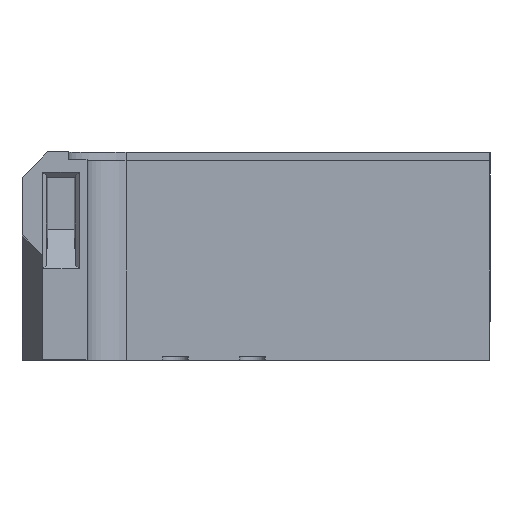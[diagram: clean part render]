
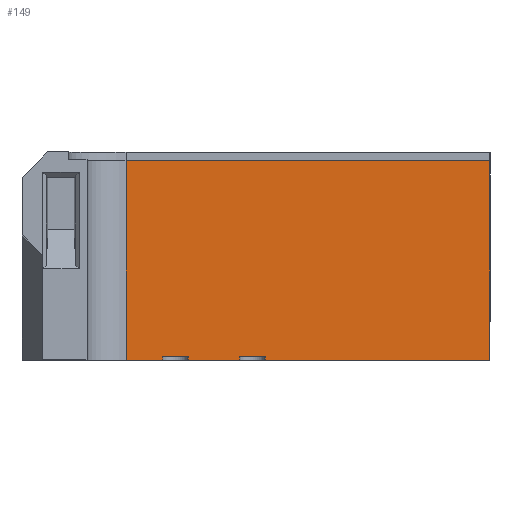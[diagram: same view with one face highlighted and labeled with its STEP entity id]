
A CAD part, top view. The second image highlights one B-rep face of the part: STEP entity #149.
In plain terms, the highlighted planar face has unit normal (0, 0, 1).
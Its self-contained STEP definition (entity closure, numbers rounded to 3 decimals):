
#12 = EDGE_CURVE ( 'NONE', #1161, #672, #2212, .T. ) ;
#42 = LINE ( 'NONE', #1727, #1530 ) ;
#50 = VERTEX_POINT ( 'NONE', #1430 ) ;
#98 = ORIENTED_EDGE ( 'NONE', *, *, #1124, .F. ) ;
#117 = VERTEX_POINT ( 'NONE', #135 ) ;
#135 = CARTESIAN_POINT ( 'NONE',  ( -97.863, 0., -303.977 ) ) ;
#139 = CARTESIAN_POINT ( 'NONE',  ( -97.863, 1.5, -303.977 ) ) ;
#140 = EDGE_CURVE ( 'NONE', #2749, #50, #2722, .T. ) ;
#145 = CARTESIAN_POINT ( 'NONE',  ( -88.065, 1.5, -303.977 ) ) ;
#149 = ADVANCED_FACE ( 'NONE', ( #863 ), #2283, .T. ) ;
#178 = CARTESIAN_POINT ( 'NONE',  ( 173.336, 0., -303.977 ) ) ;
#184 = ORIENTED_EDGE ( 'NONE', *, *, #12, .T. ) ;
#196 = EDGE_CURVE ( 'NONE', #1002, #672, #2525, .T. ) ;
#204 = CARTESIAN_POINT ( 'NONE',  ( -127.563, 1.5, -303.977 ) ) ;
#211 = EDGE_CURVE ( 'NONE', #2421, #2366, #2481, .T. ) ;
#257 = ORIENTED_EDGE ( 'NONE', *, *, #140, .F. ) ;
#282 = EDGE_CURVE ( 'NONE', #2421, #50, #2620, .T. ) ;
#321 = DIRECTION ( 'NONE',  ( 0., -1., 0. ) ) ;
#351 = CARTESIAN_POINT ( 'NONE',  ( -127.563, 1.5, -303.977 ) ) ;
#367 = DIRECTION ( 'NONE',  ( 0., -1., 0. ) ) ;
#436 = EDGE_LOOP ( 'NONE', ( #2453, #1443, #257, #1931, #984, #184, #2157, #98, #2317, #1966, #1654, #2750 ) ) ;
#439 = DIRECTION ( 'NONE',  ( -1., 0., 0. ) ) ;
#539 = VECTOR ( 'NONE', #1464, 1000. ) ;
#546 = VERTEX_POINT ( 'NONE', #2667 ) ;
#591 = VECTOR ( 'NONE', #1227, 1000. ) ;
#607 = VERTEX_POINT ( 'NONE', #763 ) ;
#612 = CARTESIAN_POINT ( 'NONE',  ( 173.336, 0., -303.977 ) ) ;
#646 = DIRECTION ( 'NONE',  ( 1., 0., 0. ) ) ;
#664 = VECTOR ( 'NONE', #1150, 1000. ) ;
#672 = VERTEX_POINT ( 'NONE', #2703 ) ;
#688 = EDGE_CURVE ( 'NONE', #2670, #546, #2519, .T. ) ;
#690 = CARTESIAN_POINT ( 'NONE',  ( -141.664, 76.8, -303.977 ) ) ;
#763 = CARTESIAN_POINT ( 'NONE',  ( -1.664, 0., -303.977 ) ) ;
#779 = EDGE_CURVE ( 'NONE', #2657, #2670, #1152, .T. ) ;
#797 = CARTESIAN_POINT ( 'NONE',  ( 173.336, 76.8, -303.977 ) ) ;
#808 = CARTESIAN_POINT ( 'NONE',  ( -127.563, 0., -303.977 ) ) ;
#822 = LINE ( 'NONE', #1800, #2333 ) ;
#863 = FACE_OUTER_BOUND ( 'NONE', #436, .T. ) ;
#981 = EDGE_CURVE ( 'NONE', #2657, #607, #822, .T. ) ;
#984 = ORIENTED_EDGE ( 'NONE', *, *, #2724, .F. ) ;
#1002 = VERTEX_POINT ( 'NONE', #2681 ) ;
#1003 = DIRECTION ( 'NONE',  ( 0., -1., 0. ) ) ;
#1080 = CARTESIAN_POINT ( 'NONE',  ( 173.336, 1.5, -303.977 ) ) ;
#1088 = VECTOR ( 'NONE', #1003, 1000. ) ;
#1109 = LINE ( 'NONE', #612, #539 ) ;
#1124 = EDGE_CURVE ( 'NONE', #607, #1002, #42, .T. ) ;
#1150 = DIRECTION ( 'NONE',  ( 1., 0., 0. ) ) ;
#1152 = LINE ( 'NONE', #797, #591 ) ;
#1161 = VERTEX_POINT ( 'NONE', #1393 ) ;
#1227 = DIRECTION ( 'NONE',  ( -1., 0., 0. ) ) ;
#1366 = AXIS2_PLACEMENT_3D ( 'NONE', #1842, #1862, #1832 ) ;
#1393 = CARTESIAN_POINT ( 'NONE',  ( -97.863, 1.5, -303.977 ) ) ;
#1407 = VECTOR ( 'NONE', #646, 1000. ) ;
#1430 = CARTESIAN_POINT ( 'NONE',  ( -117.765, 1.5, -303.977 ) ) ;
#1443 = ORIENTED_EDGE ( 'NONE', *, *, #282, .T. ) ;
#1447 = CARTESIAN_POINT ( 'NONE',  ( -141.664, 80., -303.977 ) ) ;
#1464 = DIRECTION ( 'NONE',  ( -1., 0., 0. ) ) ;
#1530 = VECTOR ( 'NONE', #439, 1000. ) ;
#1596 = EDGE_CURVE ( 'NONE', #117, #2749, #1109, .T. ) ;
#1630 = DIRECTION ( 'NONE',  ( 0., -1., 0. ) ) ;
#1654 = ORIENTED_EDGE ( 'NONE', *, *, #688, .T. ) ;
#1686 = DIRECTION ( 'NONE',  ( -1., 0., 0. ) ) ;
#1727 = CARTESIAN_POINT ( 'NONE',  ( 173.336, 0., -303.977 ) ) ;
#1800 = CARTESIAN_POINT ( 'NONE',  ( -1.664, 80., -303.977 ) ) ;
#1803 = CARTESIAN_POINT ( 'NONE',  ( 173.336, 1.5, -303.977 ) ) ;
#1832 = DIRECTION ( 'NONE',  ( 1., 0., 0. ) ) ;
#1842 = CARTESIAN_POINT ( 'NONE',  ( 173.336, 80., -303.977 ) ) ;
#1862 = DIRECTION ( 'NONE',  ( 0., 0., 1. ) ) ;
#1876 = CARTESIAN_POINT ( 'NONE',  ( -117.765, 0., -303.977 ) ) ;
#1877 = VECTOR ( 'NONE', #2082, 1000. ) ;
#1931 = ORIENTED_EDGE ( 'NONE', *, *, #1596, .F. ) ;
#1966 = ORIENTED_EDGE ( 'NONE', *, *, #779, .T. ) ;
#1981 = VECTOR ( 'NONE', #1686, 1000. ) ;
#2011 = CARTESIAN_POINT ( 'NONE',  ( -1.664, 76.8, -303.977 ) ) ;
#2042 = VECTOR ( 'NONE', #1630, 1000. ) ;
#2082 = DIRECTION ( 'NONE',  ( 0., 1., 0. ) ) ;
#2157 = ORIENTED_EDGE ( 'NONE', *, *, #196, .F. ) ;
#2212 = LINE ( 'NONE', #1803, #664 ) ;
#2271 = DIRECTION ( 'NONE',  ( 0., 1., 0. ) ) ;
#2283 = PLANE ( 'NONE',  #1366 ) ;
#2317 = ORIENTED_EDGE ( 'NONE', *, *, #981, .F. ) ;
#2333 = VECTOR ( 'NONE', #321, 1000. ) ;
#2366 = VERTEX_POINT ( 'NONE', #808 ) ;
#2384 = VECTOR ( 'NONE', #367, 1000. ) ;
#2421 = VERTEX_POINT ( 'NONE', #204 ) ;
#2439 = EDGE_CURVE ( 'NONE', #2366, #546, #2487, .T. ) ;
#2447 = VECTOR ( 'NONE', #2271, 1000. ) ;
#2453 = ORIENTED_EDGE ( 'NONE', *, *, #211, .F. ) ;
#2457 = LINE ( 'NONE', #139, #2384 ) ;
#2481 = LINE ( 'NONE', #351, #2042 ) ;
#2487 = LINE ( 'NONE', #178, #1981 ) ;
#2519 = LINE ( 'NONE', #1447, #1088 ) ;
#2525 = LINE ( 'NONE', #145, #1877 ) ;
#2620 = LINE ( 'NONE', #1080, #1407 ) ;
#2657 = VERTEX_POINT ( 'NONE', #2011 ) ;
#2667 = CARTESIAN_POINT ( 'NONE',  ( -141.664, 0., -303.977 ) ) ;
#2670 = VERTEX_POINT ( 'NONE', #690 ) ;
#2681 = CARTESIAN_POINT ( 'NONE',  ( -88.065, 0., -303.977 ) ) ;
#2703 = CARTESIAN_POINT ( 'NONE',  ( -88.065, 1.5, -303.977 ) ) ;
#2705 = CARTESIAN_POINT ( 'NONE',  ( -117.765, 1.5, -303.977 ) ) ;
#2722 = LINE ( 'NONE', #2705, #2447 ) ;
#2724 = EDGE_CURVE ( 'NONE', #1161, #117, #2457, .T. ) ;
#2749 = VERTEX_POINT ( 'NONE', #1876 ) ;
#2750 = ORIENTED_EDGE ( 'NONE', *, *, #2439, .F. ) ;
